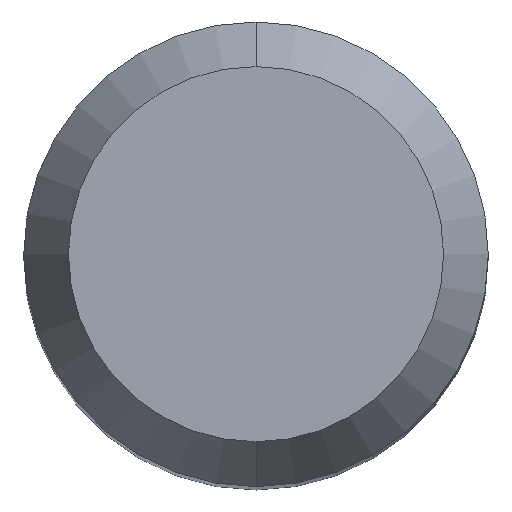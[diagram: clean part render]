
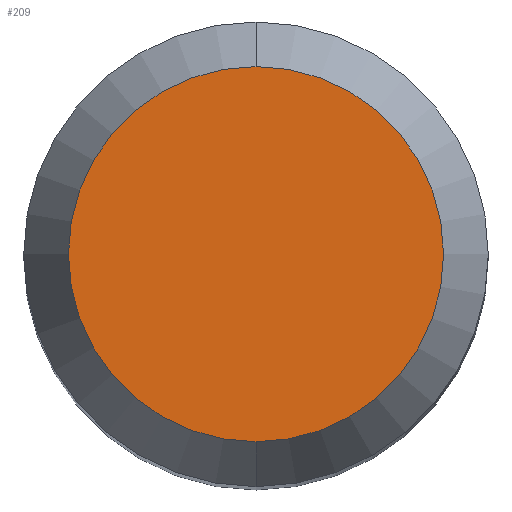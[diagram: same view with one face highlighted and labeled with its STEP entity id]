
A CAD part, top view. The second image highlights one B-rep face of the part: STEP entity #209.
In plain terms, the highlighted free-form (B-spline) face has degree [1, 1] with [2, 2] control points.
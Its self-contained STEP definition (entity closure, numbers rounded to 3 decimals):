
#42=CARTESIAN_POINT('',(0.,0.,0.));
#43=DIRECTION('',(0.,0.,1.));
#44=DIRECTION('',(0.,1.,0.));
#45=AXIS2_PLACEMENT_3D('',#42,#43,#44);
#47=CARTESIAN_POINT('',(0.,0.,0.));
#48=DIRECTION('',(0.,0.,-1.));
#49=DIRECTION('',(0.,1.,0.));
#50=AXIS2_PLACEMENT_3D('',#47,#48,#49);
#109=CARTESIAN_POINT('',(0.,2.423,0.));
#111=VERTEX_POINT('',#109);
#113=CARTESIAN_POINT('',(0.,-2.423,0.));
#115=VERTEX_POINT('',#113);
#200=CARTESIAN_POINT('',(2.52,2.52,0.));
#201=CARTESIAN_POINT('',(-2.52,2.52,0.));
#202=CARTESIAN_POINT('',(2.52,-2.52,0.));
#203=CARTESIAN_POINT('',(-2.52,-2.52,0.));
#204=B_SPLINE_SURFACE_WITH_KNOTS('',1,1,((#200,#201),(#202,#203)),.UNSPECIFIED.,
.F.,.F.,.F.,(2,2),(2,2),(-2.52,2.52),(-2.52,
2.52),.UNSPECIFIED.);
#205=ORIENTED_EDGE('',*,*,#185,.F.);
#206=ORIENTED_EDGE('',*,*,#153,.T.);
#207=EDGE_LOOP('',(#205,#206));
#208=FACE_OUTER_BOUND('',#207,.F.);
#46=CIRCLE('',#45,2.423);
#51=CIRCLE('',#50,2.423);
#153=EDGE_CURVE('',#111,#115,#51,.T.);
#185=EDGE_CURVE('',#111,#115,#46,.T.);
#209=ADVANCED_FACE('',(#208),#204,.F.);
